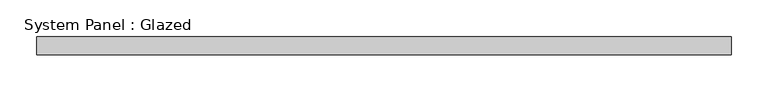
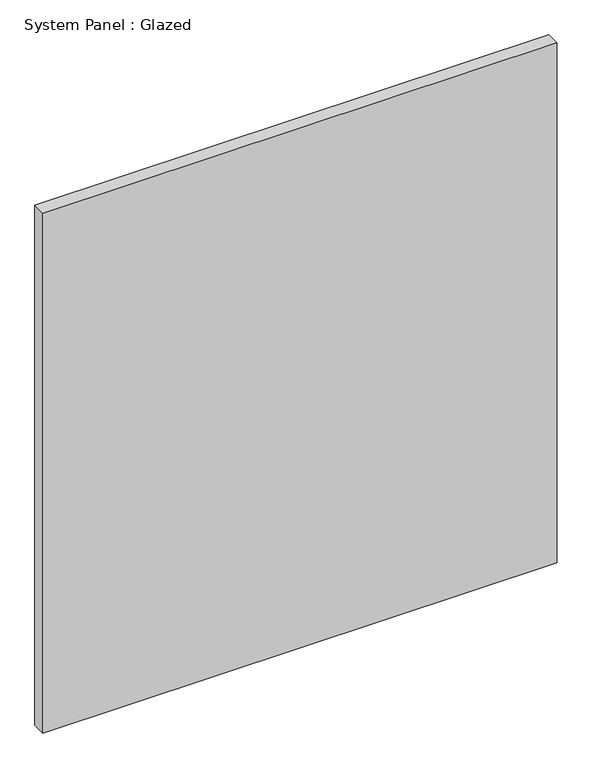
"""IFC4 building model written with IfcOpenShell, lengths in millimetres: plate geometry, System Panel : Glazed."""

from ifc_helpers import new_model, si_unit, origin, origin_with_axes, place, context, project, spatial, polyline, outline, extrude, source, transform, mapped, element, save


def system_panel_glazed_3987acf4(model_context):
    return source(origin(), model_context, "Body", "SweptSolid", [
        extrude(outline(polyline([(475.0, 24.5), (-475.0, 24.5), (-475.0, 49.5), (475.0, 49.5), (475.0, 24.5)])), origin_with_axes(), (0.0, 0.0, 1.0), 1015.4395036),
    ])


if __name__ == "__main__":
    model = new_model("IFC4")
    model_context = context("Model", 3, world=origin())
    ifc_project = project(units=[si_unit("LENGTHUNIT", "METRE", prefix="MILLI")], contexts=[model_context])
    site = spatial("IfcSite", under=ifc_project)
    building = spatial("IfcBuilding", under=site)
    placement = place(None, origin())
    system_panel_glazed_shape = system_panel_glazed_3987acf4(model_context)
    element("IfcPlate", 1, ObjectType="System Panel : Glazed", at=placement, inside=building, context=model_context, shape_type="MappedRepresentation", body=[
        mapped(system_panel_glazed_shape, transform((0.0, 0.0, 0.0), x_axis=(1.0, 0.0, 0.0), y_axis=(0.0, 1.0, 0.0), z_axis=(0.0, 0.0, 1.0))),
    ])
    save(model, "model.ifc")
